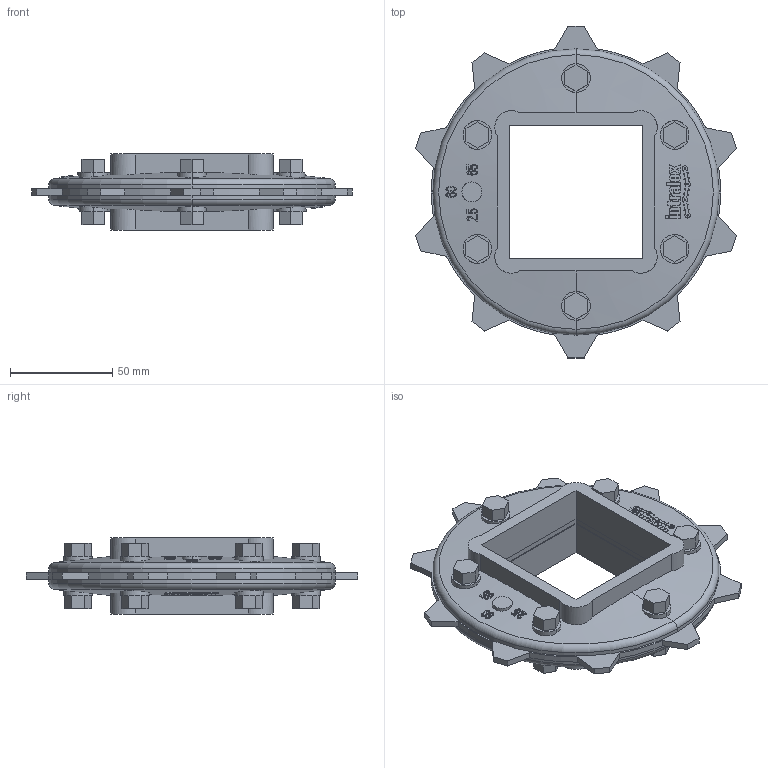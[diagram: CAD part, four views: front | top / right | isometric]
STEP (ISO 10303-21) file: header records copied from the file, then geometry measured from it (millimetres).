
FILE_DESCRIPTION((''),'2;1');
FILE_NAME('S400_SPL_METAL_64X25_60_65_SQ_ASM','2008-12-12T',('jmumphre'),(''),'PRO/ENGINEER BY PARAMETRIC TECHNOLOGY CORPORATION, 2008150','PRO/ENGINEER BY PARAMETRIC TECHNOLOGY CORPORATION, 2008150','');
FILE_SCHEMA(('CONFIG_CONTROL_DESIGN'));
Length unit declared in the file: inch
Products named in the file (5): S400_TP_METAL_64X26_SQ_AF2; JOINING_PLATE_6X25_60_65_SQ_AF2; JOINING_PLATE_6X25_60_65_SQ_AF3; BOLTS_N_NUTS_4-376X0-750_AF3; S400_SPL_METAL_64X25_60_65_SQ_ASM
Assembly tree (4 placements, depth 2):
  S400_SPL_METAL_64X25_60_65_SQ_ASM
    S400_TP_METAL_64X26_SQ_AF2
    JOINING_PLATE_6X25_60_65_SQ_AF2
    JOINING_PLATE_6X25_60_65_SQ_AF3
    BOLTS_N_NUTS_4-376X0-750_AF3
Bounding box: 156.47 x 161.99 x 37.08 mm (x, y, z)
Volume: 222221.7 mm3; surface area: 100448.5 mm2
Topology: 9 solids, 9 shells, 1282 faces, 3554 edges, 2364 vertices
Faces by surface type: plane 948, cylinder 274, cone 56, torus 4
Entity records: 44715 total; most frequent: CARTESIAN_POINT 15421, ORIENTED_EDGE 7108, DIRECTION 4340, EDGE_CURVE 3554, VERTEX_POINT 2364, B_SPLINE_CURVE_WITH_KNOTS 1964, AXIS2_PLACEMENT_3D 1459, VECTOR 1422
